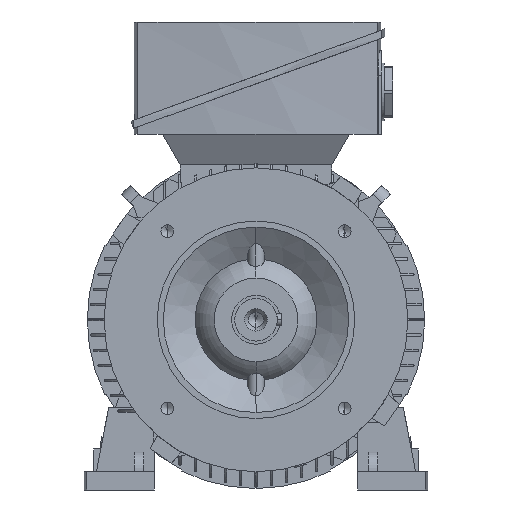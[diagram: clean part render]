
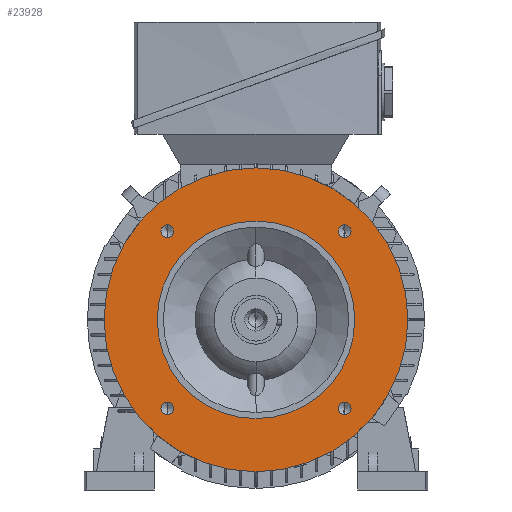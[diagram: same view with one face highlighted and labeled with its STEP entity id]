
A CAD part, left-side view. The second image highlights one B-rep face of the part: STEP entity #23928.
In plain terms, the highlighted planar face has unit normal (-1, 0, 0).
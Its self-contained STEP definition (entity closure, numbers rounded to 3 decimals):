
#185 = CARTESIAN_POINT ( 'NONE',  ( -40., 0., 65. ) ) ;
#351 = CARTESIAN_POINT ( 'NONE',  ( -40., 0., -100. ) ) ;
#817 = CARTESIAN_POINT ( 'NONE',  ( -40., 0., 0. ) ) ;
#1206 = EDGE_CURVE ( 'NONE', #24445, #13431, #32435, .T. ) ;
#1489 = ORIENTED_EDGE ( 'NONE', *, *, #24371, .T. ) ;
#1541 = EDGE_CURVE ( 'NONE', #3974, #23723, #22130, .T. ) ;
#1577 = AXIS2_PLACEMENT_3D ( 'NONE', #26995, #9919, #15823 ) ;
#2394 = EDGE_LOOP ( 'NONE', ( #9797, #1489 ) ) ;
#2401 = CARTESIAN_POINT ( 'NONE',  ( -40., 58.336, -54.146 ) ) ;
#2994 = AXIS2_PLACEMENT_3D ( 'NONE', #817, #20909, #3713 ) ;
#3192 = VERTEX_POINT ( 'NONE', #6837 ) ;
#3414 = VERTEX_POINT ( 'NONE', #19233 ) ;
#3562 = AXIS2_PLACEMENT_3D ( 'NONE', #15436, #9528, #29244 ) ;
#3713 = DIRECTION ( 'NONE',  ( 0., 0., 1. ) ) ;
#3974 = VERTEX_POINT ( 'NONE', #351 ) ;
#4086 = VERTEX_POINT ( 'NONE', #15152 ) ;
#4524 = DIRECTION ( 'NONE',  ( 1., 0., 0. ) ) ;
#4754 = DIRECTION ( 'NONE',  ( 0., 0., 1. ) ) ;
#4780 = DIRECTION ( 'NONE',  ( 0., 0., 1. ) ) ;
#5125 = DIRECTION ( 'NONE',  ( 0., 0., -1. ) ) ;
#5151 = EDGE_LOOP ( 'NONE', ( #26117, #22132 ) ) ;
#5246 = CARTESIAN_POINT ( 'NONE',  ( -40., -58.336, 54.146 ) ) ;
#5559 = CARTESIAN_POINT ( 'NONE',  ( -40., -58.336, 58.336 ) ) ;
#6540 = ORIENTED_EDGE ( 'NONE', *, *, #31237, .T. ) ;
#6837 = CARTESIAN_POINT ( 'NONE',  ( -40., 0., -65. ) ) ;
#7396 = CARTESIAN_POINT ( 'NONE',  ( -40., 58.336, -58.336 ) ) ;
#7509 = DIRECTION ( 'NONE',  ( 1., 0., 0. ) ) ;
#7730 = CARTESIAN_POINT ( 'NONE',  ( -40., -58.336, -58.336 ) ) ;
#7887 = ORIENTED_EDGE ( 'NONE', *, *, #12779, .T. ) ;
#9528 = DIRECTION ( 'NONE',  ( 1., 0., 0. ) ) ;
#9560 = CARTESIAN_POINT ( 'NONE',  ( -40., 0., 100. ) ) ;
#9615 = AXIS2_PLACEMENT_3D ( 'NONE', #5559, #13987, #16873 ) ;
#9668 = EDGE_CURVE ( 'NONE', #3414, #28025, #11362, .T. ) ;
#9797 = ORIENTED_EDGE ( 'NONE', *, *, #16828, .T. ) ;
#9827 = DIRECTION ( 'NONE',  ( 0., 0., 1. ) ) ;
#9867 = DIRECTION ( 'NONE',  ( 0., 0., -1. ) ) ;
#9919 = DIRECTION ( 'NONE',  ( 1., 0., 0. ) ) ;
#10426 = FACE_BOUND ( 'NONE', #27753, .T. ) ;
#10512 = CIRCLE ( 'NONE', #9615, 4.19 ) ;
#10646 = ORIENTED_EDGE ( 'NONE', *, *, #1206, .T. ) ;
#10749 = VERTEX_POINT ( 'NONE', #5246 ) ;
#10869 = CARTESIAN_POINT ( 'NONE',  ( -40., 58.336, 58.336 ) ) ;
#10958 = DIRECTION ( 'NONE',  ( 0., 0., 1. ) ) ;
#11051 = ORIENTED_EDGE ( 'NONE', *, *, #1541, .F. ) ;
#11362 = CIRCLE ( 'NONE', #29526, 4.19 ) ;
#11381 = AXIS2_PLACEMENT_3D ( 'NONE', #13193, #7509, #4754 ) ;
#12779 = EDGE_CURVE ( 'NONE', #10749, #13042, #10512, .T. ) ;
#13042 = VERTEX_POINT ( 'NONE', #35354 ) ;
#13145 = ORIENTED_EDGE ( 'NONE', *, *, #28461, .T. ) ;
#13193 = CARTESIAN_POINT ( 'NONE',  ( -40., 0., 0. ) ) ;
#13431 = VERTEX_POINT ( 'NONE', #2401 ) ;
#13670 = CARTESIAN_POINT ( 'NONE',  ( -40., 58.336, -62.526 ) ) ;
#13987 = DIRECTION ( 'NONE',  ( 1., 0., 0. ) ) ;
#15026 = DIRECTION ( 'NONE',  ( 1., 0., 0. ) ) ;
#15152 = CARTESIAN_POINT ( 'NONE',  ( -40., 58.336, 54.146 ) ) ;
#15436 = CARTESIAN_POINT ( 'NONE',  ( -40., -58.336, 58.336 ) ) ;
#15659 = EDGE_CURVE ( 'NONE', #23723, #3974, #25147, .T. ) ;
#15823 = DIRECTION ( 'NONE',  ( 0., 0., -1. ) ) ;
#16402 = AXIS2_PLACEMENT_3D ( 'NONE', #16604, #36606, #10958 ) ;
#16604 = CARTESIAN_POINT ( 'NONE',  ( -40., 0., 0. ) ) ;
#16828 = EDGE_CURVE ( 'NONE', #34464, #3192, #37156, .T. ) ;
#16873 = DIRECTION ( 'NONE',  ( 0., 0., -1. ) ) ;
#17236 = CIRCLE ( 'NONE', #3562, 4.19 ) ;
#17289 = AXIS2_PLACEMENT_3D ( 'NONE', #18384, #24194, #9867 ) ;
#17530 = EDGE_CURVE ( 'NONE', #28025, #3414, #33027, .T. ) ;
#18052 = FACE_OUTER_BOUND ( 'NONE', #18350, .T. ) ;
#18350 = EDGE_LOOP ( 'NONE', ( #21163, #11051 ) ) ;
#18384 = CARTESIAN_POINT ( 'NONE',  ( -40., 58.336, 58.336 ) ) ;
#19233 = CARTESIAN_POINT ( 'NONE',  ( -40., -58.336, -54.146 ) ) ;
#19407 = AXIS2_PLACEMENT_3D ( 'NONE', #10869, #22805, #31264 ) ;
#19527 = DIRECTION ( 'NONE',  ( 1., 0., 0. ) ) ;
#20899 = EDGE_CURVE ( 'NONE', #21421, #4086, #34376, .T. ) ;
#20909 = DIRECTION ( 'NONE',  ( 1., 0., 0. ) ) ;
#21163 = ORIENTED_EDGE ( 'NONE', *, *, #15659, .F. ) ;
#21421 = VERTEX_POINT ( 'NONE', #28372 ) ;
#21456 = CIRCLE ( 'NONE', #1577, 4.19 ) ;
#22125 = CARTESIAN_POINT ( 'NONE',  ( -40., 0., 82.5 ) ) ;
#22130 = CIRCLE ( 'NONE', #16402, 100. ) ;
#22132 = ORIENTED_EDGE ( 'NONE', *, *, #20899, .T. ) ;
#22366 = DIRECTION ( 'NONE',  ( -1., 0., 0. ) ) ;
#22805 = DIRECTION ( 'NONE',  ( 1., 0., 0. ) ) ;
#23723 = VERTEX_POINT ( 'NONE', #9560 ) ;
#23928 = ADVANCED_FACE ( 'NONE', ( #18052, #31058, #10426, #31951, #35529, #25703 ), #33556, .T. ) ;
#24194 = DIRECTION ( 'NONE',  ( 1., 0., 0. ) ) ;
#24371 = EDGE_CURVE ( 'NONE', #3192, #34464, #30598, .T. ) ;
#24445 = VERTEX_POINT ( 'NONE', #13670 ) ;
#24936 = DIRECTION ( 'NONE',  ( 0., 0., -1. ) ) ;
#24965 = CARTESIAN_POINT ( 'NONE',  ( -40., -58.336, -58.336 ) ) ;
#25147 = CIRCLE ( 'NONE', #28905, 100. ) ;
#25703 = FACE_BOUND ( 'NONE', #2394, .T. ) ;
#25718 = CARTESIAN_POINT ( 'NONE',  ( -40., 0., 0. ) ) ;
#26117 = ORIENTED_EDGE ( 'NONE', *, *, #33281, .T. ) ;
#26954 = ORIENTED_EDGE ( 'NONE', *, *, #9668, .T. ) ;
#26995 = CARTESIAN_POINT ( 'NONE',  ( -40., 58.336, -58.336 ) ) ;
#27753 = EDGE_LOOP ( 'NONE', ( #31110, #26954 ) ) ;
#28025 = VERTEX_POINT ( 'NONE', #34496 ) ;
#28372 = CARTESIAN_POINT ( 'NONE',  ( -40., 58.336, 62.526 ) ) ;
#28461 = EDGE_CURVE ( 'NONE', #13431, #24445, #21456, .T. ) ;
#28905 = AXIS2_PLACEMENT_3D ( 'NONE', #25718, #15026, #9827 ) ;
#29244 = DIRECTION ( 'NONE',  ( 0., 0., -1. ) ) ;
#29526 = AXIS2_PLACEMENT_3D ( 'NONE', #7730, #19527, #24936 ) ;
#29600 = AXIS2_PLACEMENT_3D ( 'NONE', #22125, #22366, #4780 ) ;
#30549 = AXIS2_PLACEMENT_3D ( 'NONE', #7396, #4524, #33051 ) ;
#30598 = CIRCLE ( 'NONE', #11381, 65. ) ;
#30700 = DIRECTION ( 'NONE',  ( 1., 0., 0. ) ) ;
#31058 = FACE_BOUND ( 'NONE', #33738, .T. ) ;
#31079 = EDGE_LOOP ( 'NONE', ( #10646, #13145 ) ) ;
#31110 = ORIENTED_EDGE ( 'NONE', *, *, #17530, .T. ) ;
#31237 = EDGE_CURVE ( 'NONE', #13042, #10749, #17236, .T. ) ;
#31264 = DIRECTION ( 'NONE',  ( 0., 0., -1. ) ) ;
#31951 = FACE_BOUND ( 'NONE', #31079, .T. ) ;
#32435 = CIRCLE ( 'NONE', #30549, 4.19 ) ;
#33027 = CIRCLE ( 'NONE', #35723, 4.19 ) ;
#33051 = DIRECTION ( 'NONE',  ( 0., 0., -1. ) ) ;
#33281 = EDGE_CURVE ( 'NONE', #4086, #21421, #35532, .T. ) ;
#33556 = PLANE ( 'NONE',  #29600 ) ;
#33738 = EDGE_LOOP ( 'NONE', ( #7887, #6540 ) ) ;
#34376 = CIRCLE ( 'NONE', #19407, 4.19 ) ;
#34464 = VERTEX_POINT ( 'NONE', #185 ) ;
#34496 = CARTESIAN_POINT ( 'NONE',  ( -40., -58.336, -62.526 ) ) ;
#35354 = CARTESIAN_POINT ( 'NONE',  ( -40., -58.336, 62.526 ) ) ;
#35529 = FACE_BOUND ( 'NONE', #5151, .T. ) ;
#35532 = CIRCLE ( 'NONE', #17289, 4.19 ) ;
#35723 = AXIS2_PLACEMENT_3D ( 'NONE', #24965, #30700, #5125 ) ;
#36606 = DIRECTION ( 'NONE',  ( 1., 0., 0. ) ) ;
#37156 = CIRCLE ( 'NONE', #2994, 65. ) ;
